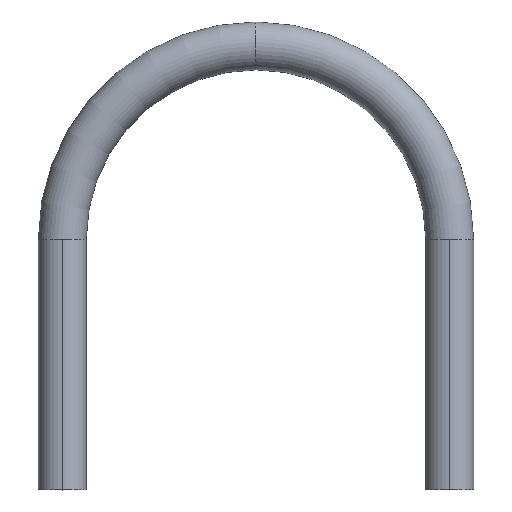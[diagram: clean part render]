
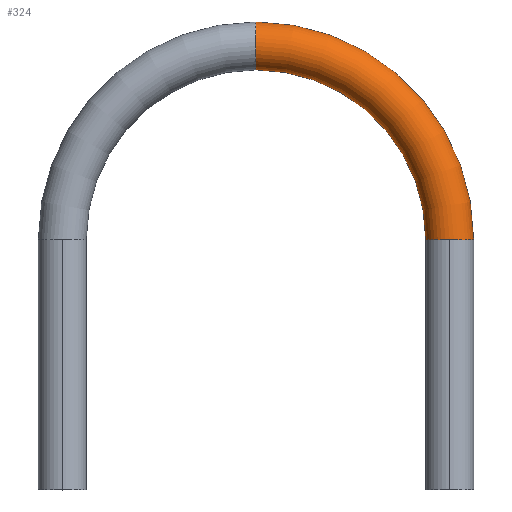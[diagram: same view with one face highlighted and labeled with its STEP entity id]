
A CAD part, top view. The second image highlights one B-rep face of the part: STEP entity #324.
In plain terms, the highlighted toroidal (fillet/blend) face has major radius 89 mm and minor radius 11 mm.
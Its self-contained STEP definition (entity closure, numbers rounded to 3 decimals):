
#13 = AXIS2_PLACEMENT_3D ( 'NONE', #481, #474, #170 ) ;
#21 = EDGE_CURVE ( 'NONE', #106, #142, #422, .T. ) ;
#31 = ORIENTED_EDGE ( 'NONE', *, *, #50, .T. ) ;
#49 = DIRECTION ( 'NONE',  ( 0., 1., 0. ) ) ;
#50 = EDGE_CURVE ( 'NONE', #233, #514, #398, .T. ) ;
#61 = EDGE_CURVE ( 'NONE', #233, #106, #545, .T. ) ;
#66 = AXIS2_PLACEMENT_3D ( 'NONE', #388, #399, #400 ) ;
#67 = VERTEX_POINT ( 'NONE', #410 ) ;
#71 = EDGE_CURVE ( 'NONE', #142, #67, #239, .T. ) ;
#94 = CARTESIAN_POINT ( 'NONE',  ( -89., 204., 0. ) ) ;
#106 = VERTEX_POINT ( 'NONE', #412 ) ;
#118 = DIRECTION ( 'NONE',  ( 1., 0., 0. ) ) ;
#133 = ORIENTED_EDGE ( 'NONE', *, *, #192, .T. ) ;
#139 = TOROIDAL_SURFACE ( 'NONE', #204, 89., 11. ) ;
#142 = VERTEX_POINT ( 'NONE', #552 ) ;
#168 = FACE_OUTER_BOUND ( 'NONE', #623, .T. ) ;
#170 = DIRECTION ( 'NONE',  ( 1., 0., 0. ) ) ;
#171 = CARTESIAN_POINT ( 'NONE',  ( -89., 115., 0. ) ) ;
#178 = CARTESIAN_POINT ( 'NONE',  ( 11., 115., 0. ) ) ;
#192 = EDGE_CURVE ( 'NONE', #514, #67, #343, .T. ) ;
#201 = ORIENTED_EDGE ( 'NONE', *, *, #61, .F. ) ;
#204 = AXIS2_PLACEMENT_3D ( 'NONE', #428, #467, #296 ) ;
#233 = VERTEX_POINT ( 'NONE', #178 ) ;
#239 = CIRCLE ( 'NONE', #66, 78. ) ;
#250 = CARTESIAN_POINT ( 'NONE',  ( 0., 115., 0. ) ) ;
#296 = DIRECTION ( 'NONE',  ( 1., 0., 0. ) ) ;
#304 = ORIENTED_EDGE ( 'NONE', *, *, #21, .F. ) ;
#308 = DIRECTION ( 'NONE',  ( 0., -1., 0. ) ) ;
#324 = ADVANCED_FACE ( 'NONE', ( #168 ), #139, .T. ) ;
#333 = DIRECTION ( 'NONE',  ( 1., 0., 0. ) ) ;
#343 = CIRCLE ( 'NONE', #537, 11. ) ;
#347 = DIRECTION ( 'NONE',  ( 1., 0., 0. ) ) ;
#388 = CARTESIAN_POINT ( 'NONE',  ( -89., 115., 0. ) ) ;
#398 = CIRCLE ( 'NONE', #547, 100. ) ;
#399 = DIRECTION ( 'NONE',  ( 0., 0., 1. ) ) ;
#400 = DIRECTION ( 'NONE',  ( 1., 0., 0. ) ) ;
#410 = CARTESIAN_POINT ( 'NONE',  ( -89., 193., 0. ) ) ;
#412 = CARTESIAN_POINT ( 'NONE',  ( 0., 115., 11. ) ) ;
#422 = CIRCLE ( 'NONE', #13, 11. ) ;
#428 = CARTESIAN_POINT ( 'NONE',  ( -89., 115., 0. ) ) ;
#467 = DIRECTION ( 'NONE',  ( 0., 0., 1. ) ) ;
#474 = DIRECTION ( 'NONE',  ( 0., -1., 0. ) ) ;
#479 = DIRECTION ( 'NONE',  ( 0., 0., 1. ) ) ;
#481 = CARTESIAN_POINT ( 'NONE',  ( 0., 115., 0. ) ) ;
#491 = ORIENTED_EDGE ( 'NONE', *, *, #71, .F. ) ;
#514 = VERTEX_POINT ( 'NONE', #629 ) ;
#537 = AXIS2_PLACEMENT_3D ( 'NONE', #94, #333, #49 ) ;
#545 = CIRCLE ( 'NONE', #612, 11. ) ;
#547 = AXIS2_PLACEMENT_3D ( 'NONE', #171, #479, #118 ) ;
#552 = CARTESIAN_POINT ( 'NONE',  ( -11., 115., 0. ) ) ;
#612 = AXIS2_PLACEMENT_3D ( 'NONE', #250, #308, #347 ) ;
#623 = EDGE_LOOP ( 'NONE', ( #201, #31, #133, #491, #304 ) ) ;
#629 = CARTESIAN_POINT ( 'NONE',  ( -89., 215., 0. ) ) ;
